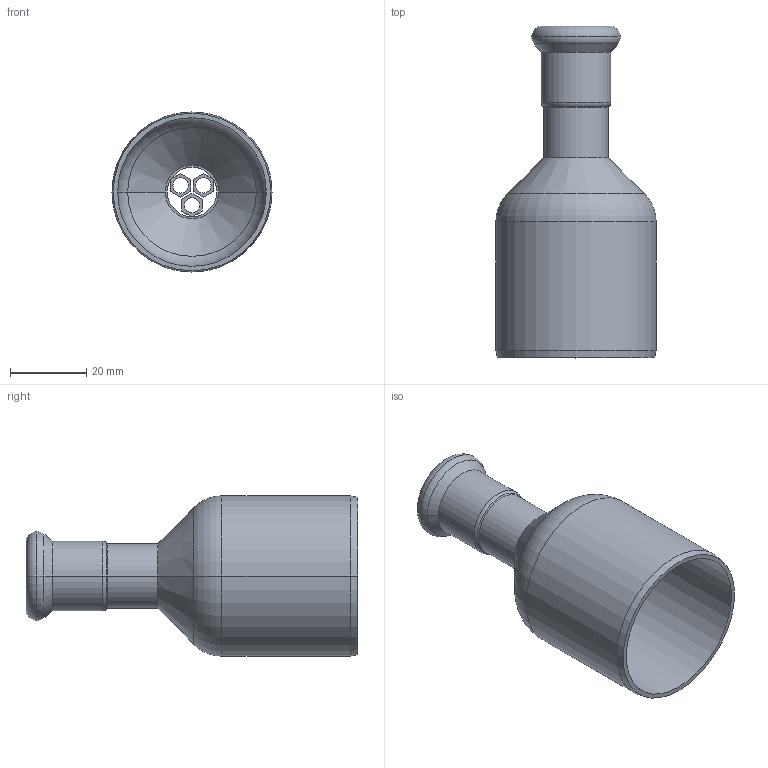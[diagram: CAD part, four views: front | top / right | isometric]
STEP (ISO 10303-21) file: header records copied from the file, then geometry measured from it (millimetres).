
FILE_DESCRIPTION(('OneSpaceDesigner STEP Export'),'2;1');
FILE_NAME('R2707 15x42.stp','2010-06-09T12:53:04',(''),(''),'OneSpace Designer STEP processor for AP214 (Solid Model)','OneSpace Modeling 15.00A 14-Mar-2007 (C) CoCreate Software GmbH','');
FILE_SCHEMA(('AUTOMOTIVE_DESIGN { 1 0 10303 214 1 1 1 1 }'));
Length unit declared in the file: millimetre
Products named in the file (2): R2707_15x42
Assembly tree (1 placements, depth 2):
  R2707_15x42
    R2707_15x42
Bounding box: 42 x 87 x 42 mm (x, y, z)
Volume: 12684.5 mm3; surface area: 17498.4 mm2
Topology: 1 solids, 1 shells, 77 faces, 181 edges, 112 vertices
Faces by surface type: plane 32, cylinder 25, cone 10, torus 10
Entity records: 1978 total; most frequent: ORIENTED_EDGE 362, CARTESIAN_POINT 314, DIRECTION 303, EDGE_CURVE 181, VERTEX_POINT 112, AXIS2_PLACEMENT_3D 101, VECTOR 101, LINE 101
